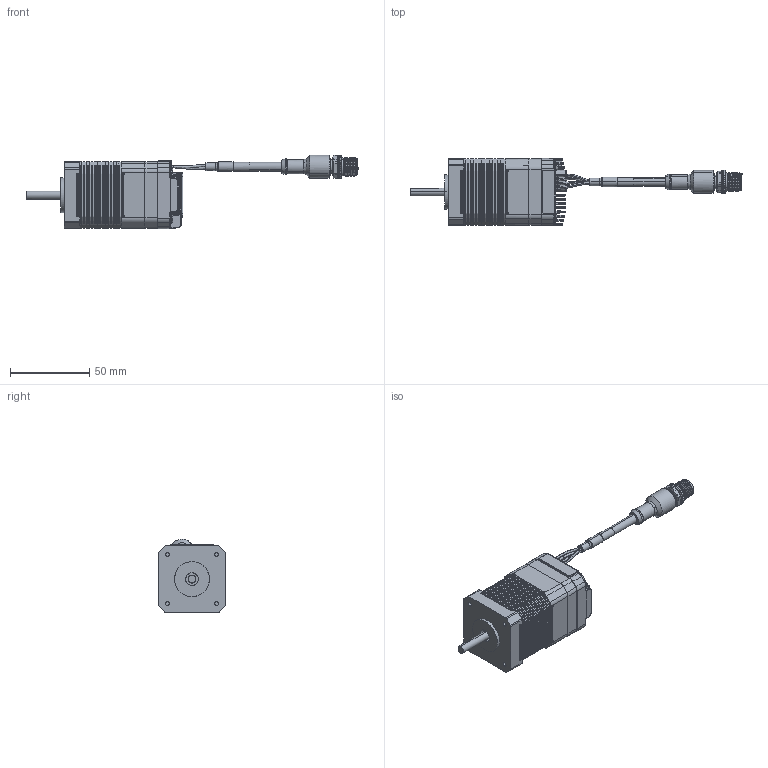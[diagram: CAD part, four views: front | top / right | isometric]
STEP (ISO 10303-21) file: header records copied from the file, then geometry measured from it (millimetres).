
FILE_DESCRIPTION (( 'STEP AP214' ), '1' );
FILE_NAME ('AB-SM-17-NB.STEP', '2024-09-26T17:57:36', ( '' ), ( '' ), 'SwSTEP 2.0', 'SolidWorks 2023', '' );
FILE_SCHEMA (( 'AUTOMOTIVE_DESIGN' ));
Length unit declared in the file: millimetre
Products named in the file (1): AB-SM-17-NB
Bounding box: 209.4 x 42.32 x 46.4 mm (x, y, z)
Surface area: 34618.5 mm2 (no closed solid volume)
Topology: 0 solids, 20 shells, 2746 faces, 7381 edges, 4697 vertices
Faces by surface type: bspline 2745, plane 1
Entity records: 114850 total; most frequent: CARTESIAN_POINT 72819, ORIENTED_EDGE 14578, EDGE_CURVE 7323, B_SPLINE_CURVE_WITH_KNOTS 5783, VERTEX_POINT 4697, EDGE_LOOP 2857, FACE_OUTER_BOUND 2746, ADVANCED_FACE 2746
